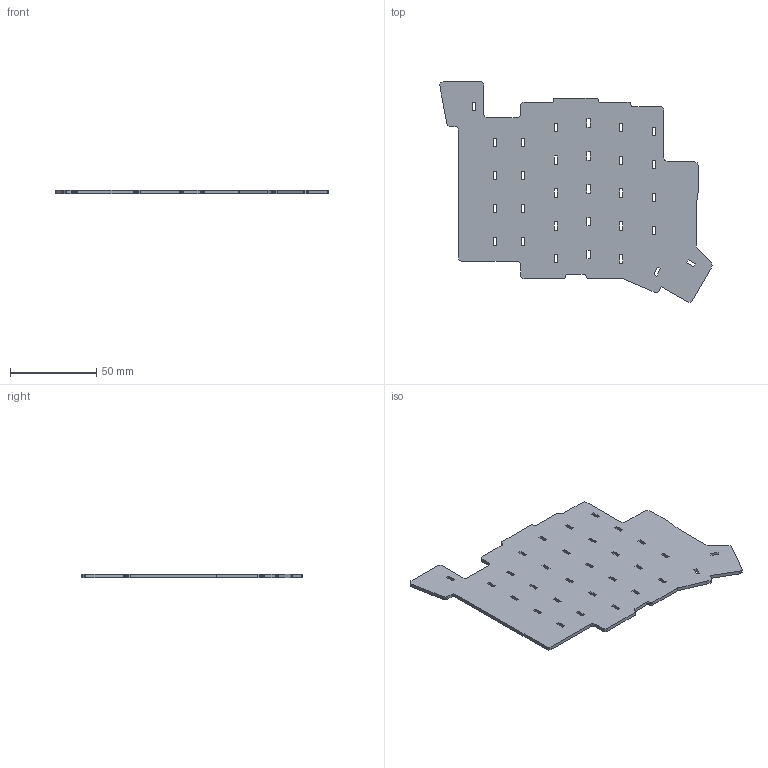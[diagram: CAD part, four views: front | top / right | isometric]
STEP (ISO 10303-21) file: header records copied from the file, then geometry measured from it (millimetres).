
FILE_DESCRIPTION(('Open CASCADE Model'),'2;1');
FILE_NAME('Open CASCADE Shape Model','1979-01-01T00:00:00',('Author'),( 'Open CASCADE'),'Open CASCADE STEP processor 8.0','Open CASCADE 8.0' ,'Unknown');
FILE_SCHEMA(('AUTOMOTIVE_DESIGN { 1 0 10303 214 1 1 1 1 }'));
Length unit declared in the file: millimetre
Products named in the file (1): Open CASCADE STEP translator 8.0 5
Bounding box: 157.86 x 127.87 x 2 mm (x, y, z)
Volume: 26957.3 mm3; surface area: 28865.1 mm2
Topology: 1 solids, 1 shells, 262 faces, 780 edges, 520 vertices
Faces by surface type: plane 262
Entity records: 18874 total; most frequent: CARTESIAN_POINT 3123, DIRECTION 2866, LINE 2340, VECTOR 2340, ORIENTED_EDGE 1560, PCURVE 1560, DEFINITIONAL_REPRESENTATION 1560, EDGE_CURVE 780
